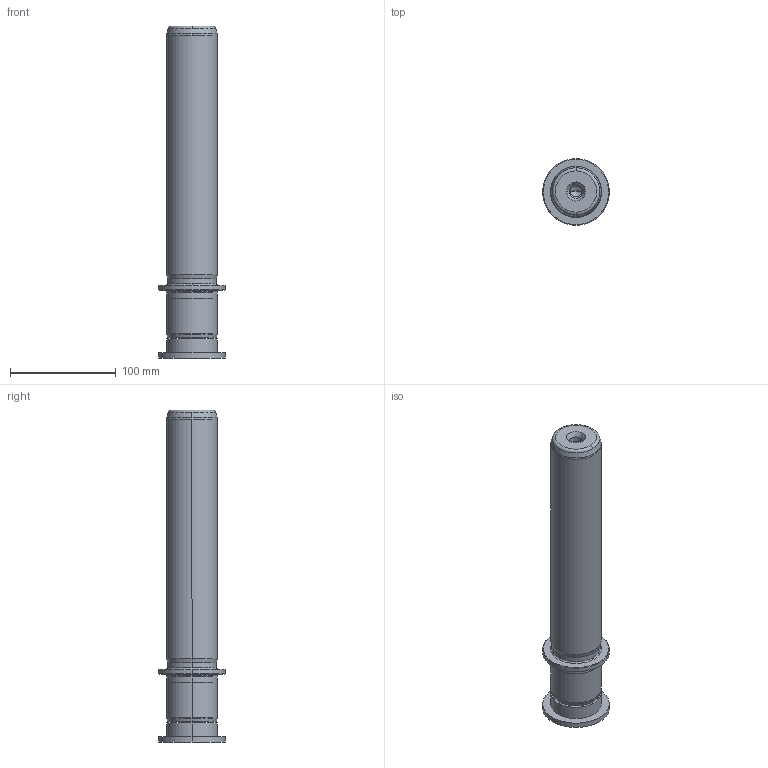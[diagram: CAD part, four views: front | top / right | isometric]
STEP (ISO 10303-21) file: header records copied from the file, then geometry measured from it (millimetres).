
FILE_DESCRIPTION((''),'2;1');
FILE_NAME('P22_048_250.stp','2009-11-02T10:40:24',(''),(''),'Mechanical Desktop 2009','Mechanical Desktop 2009',', , ');
FILE_SCHEMA(('CONFIG_CONTROL_DESIGN'));
Length unit declared in the file: millimetre
Products named in the file (2): Product; blmdl1
Assembly tree (1 placements, depth 2):
  Product
    blmdl1
Bounding box: 63 x 63 x 314 mm (x, y, z)
Volume: 570128.3 mm3; surface area: 65179.9 mm2
Topology: 3 solids, 3 shells, 99 faces, 237 edges, 149 vertices
Faces by surface type: cylinder 32, cone 28, plane 19, torus 10, bspline 10
Entity records: 3419 total; most frequent: CARTESIAN_POINT 923, DIRECTION 570, ORIENTED_EDGE 466, AXIS2_PLACEMENT_3D 246, EDGE_CURVE 233, CIRCLE 155, VERTEX_POINT 149, EDGE_LOOP 110
